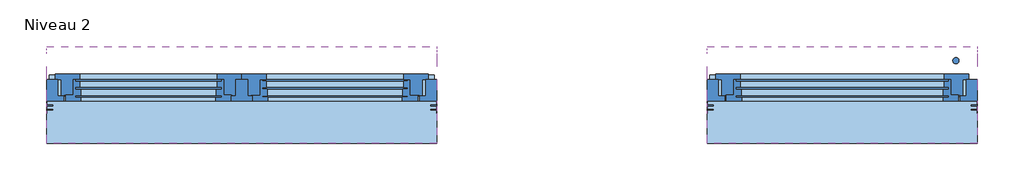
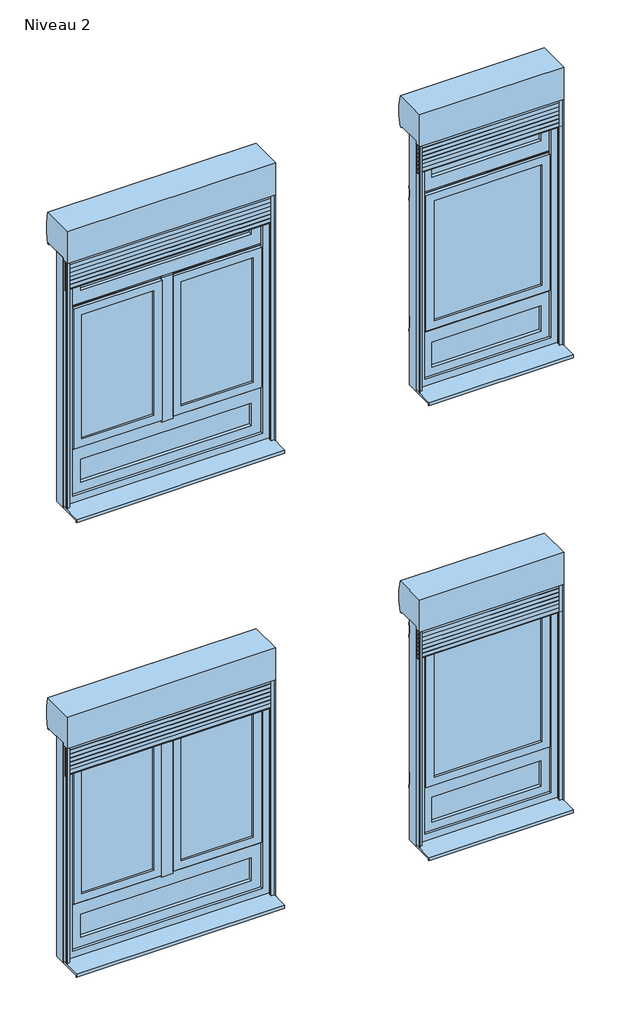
# One storey: 4 windows.
"""IFC4 building model written with IfcOpenShell, lengths in millimetres."""

from ifc_helpers import new_model, si_unit, origin, place, context, project, spatial, transform, mapped, element, save
from components import window_b5c8aea6, window_a40efb40, window_1ac53e70, window_0c8a83d3

model = new_model("IFC4")

# Units and contexts
model_context = context("Model", 3, world=origin())
ifc_project = project(units=[si_unit("LENGTHUNIT", "METRE", prefix="MILLI")], contexts=[model_context])

# Site, building, storey
site = spatial("IfcSite", under=ifc_project)
building = spatial("IfcBuilding", under=site)
storey = spatial("IfcBuildingStorey", under=building, Name="Niveau 2", Elevation=6000.0)

# Windows
placement = place(None, origin())
window_shape = window_b5c8aea6(model_context)
element("IfcWindow", 1, ObjectType="6. OF1 + Fixe en B ENR PVC-ALU : 130X165 (LXH) cm", at=placement, inside=storey, context=model_context, shape_type="MappedRepresentation", body=[
    mapped(window_shape, transform((-1375.5995417, 52.7570743, 5910.0), x_axis=(-1.0, 0.0, 0.0), y_axis=(0.0, -1.0, 0.0), z_axis=(0.0, 0.0, 1.0))),
])
window_2_shape = window_a40efb40(model_context)
element("IfcWindow", 2, ObjectType="7. OF2 ENR + Fixe en B PVC-ALU : 130X165 (LXH) cm", at=placement, inside=storey, context=model_context, shape_type="MappedRepresentation", body=[
    mapped(window_2_shape, transform((-3375.5995417, 52.7570743, 5910.0), x_axis=(-1.0, 0.0, 0.0), y_axis=(0.0, -1.0, 0.0), z_axis=(0.0, 0.0, 1.0))),
])
window_3_shape = window_1ac53e70(model_context)
element("IfcWindow", 3, ObjectType="10. OF1 + 2 Fixes en B et en H ENR PVC-ALU : 90X165 (LXH) cm", at=placement, inside=storey, context=model_context, shape_type="MappedRepresentation", body=[
    mapped(window_3_shape, transform((-1375.5995417, 52.7570743, 9210.0), x_axis=(-1.0, 0.0, 0.0), y_axis=(0.0, -1.0, 0.0), z_axis=(0.0, 0.0, 1.0))),
])
window_4_shape = window_0c8a83d3(model_context)
element("IfcWindow", 4, ObjectType="11. OF2 ENR + 2 Fixes en B et en H PVC-ALU : 130X165 (LXH) cm", at=placement, inside=storey, context=model_context, shape_type="MappedRepresentation", body=[
    mapped(window_4_shape, transform((-3375.5995417, 52.7570743, 8910.0), x_axis=(-1.0, 0.0, 0.0), y_axis=(0.0, -1.0, 0.0), z_axis=(0.0, 0.0, 1.0))),
])

save(model, "model.ifc")
